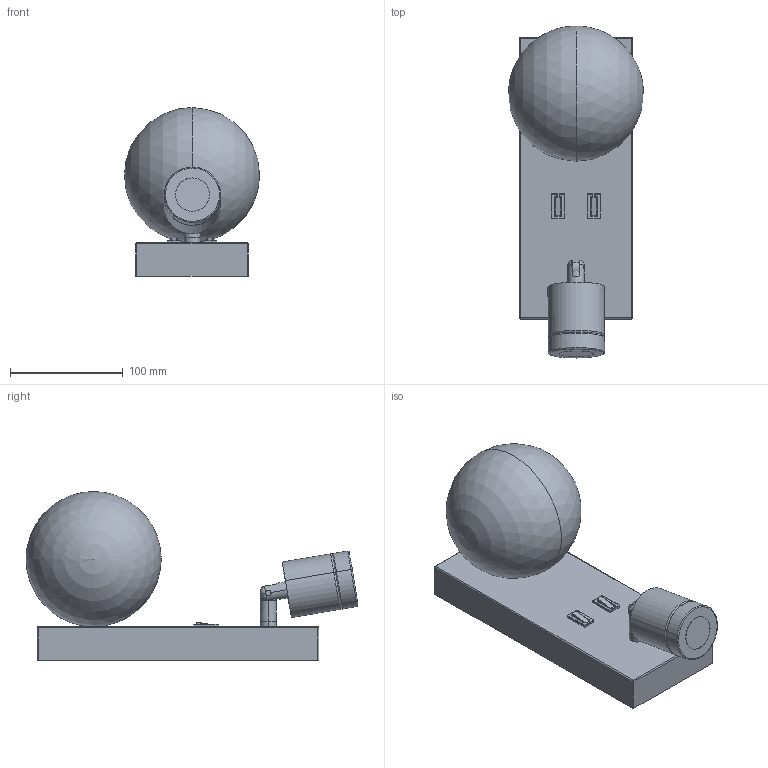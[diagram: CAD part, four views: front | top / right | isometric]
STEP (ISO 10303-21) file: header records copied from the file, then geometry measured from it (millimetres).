
FILE_DESCRIPTION (( 'STEP AP214' ), '1' );
FILE_NAME ('TEA_A1337.STEP', '2024-11-21T15:39:04', ( '' ), ( '' ), 'SwSTEP 2.0', 'SolidWorks 2018', '' );
FILE_SCHEMA (( 'AUTOMOTIVE_DESIGN' ));
Length unit declared in the file: millimetre
Products named in the file (5): regalo; TEA_A1337; estructura aplique; tubo-rotula; Rotula2
Assembly tree (4 placements, depth 2):
  TEA_A1337
    estructura aplique
    regalo
    Rotula2
    tubo-rotula
Bounding box: 120 x 294.7 x 150 mm (x, y, z)
Volume: 1753255.4 mm3; surface area: 147643.4 mm2
Topology: 14 solids, 15 shells, 206 faces, 463 edges, 281 vertices
Faces by surface type: cylinder 93, plane 65, torus 32, bspline 8, sphere 6, cone 2
Entity records: 6512 total; most frequent: CARTESIAN_POINT 1647, DIRECTION 1028, ORIENTED_EDGE 908, EDGE_CURVE 454, AXIS2_PLACEMENT_3D 417, VERTEX_POINT 278, EDGE_LOOP 214, CIRCLE 212
